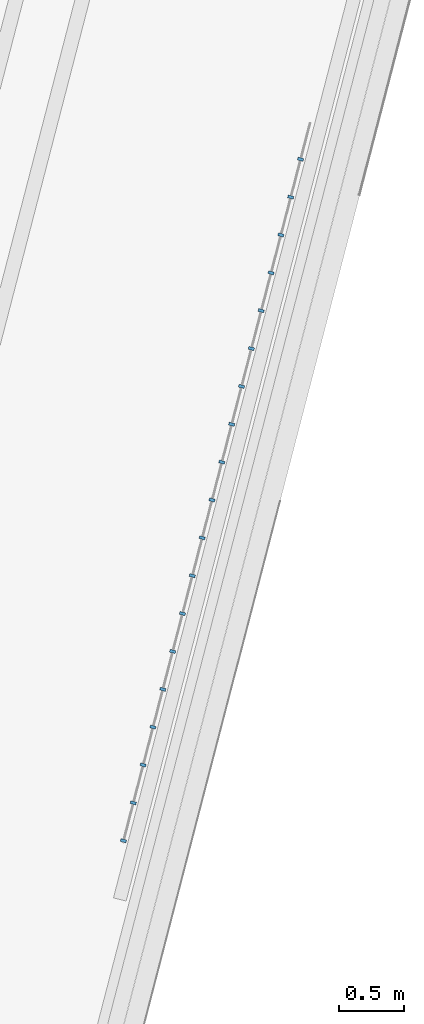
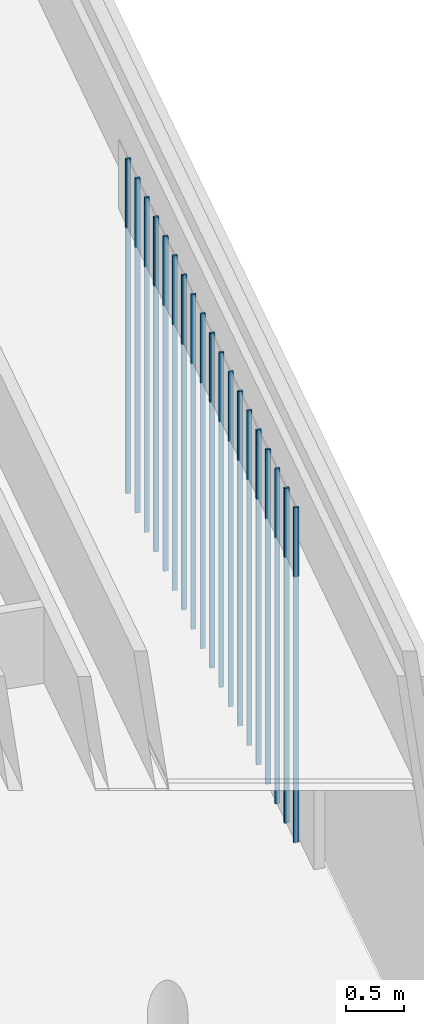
# One storey, part 3 of 9: 19 members, 1 element without a shape of its own.
"""IFC2X3 building model written with IfcOpenShell, lengths in millimetres."""

import ifcopenshell
import ifcopenshell.guid

model = None  # the IFC model being written
_history = None  # IfcOwnerHistory: only IFC2X3 demands one
_inside = {}  # id of a spatial element -> (the spatial element, [elements in it])
_under = {}  # id of a project, library or spatial element -> (it, [spatial elements below it])
_declared = {}  # id of a project -> (the project, [libraries it declares])
_typed = {}  # id of a type object -> (the type object, [elements of that type])
_made_of = {}  # id of a material, layer set ... -> (it, [elements and type objects made of it])


def new_model(schema):
    """Start an empty IFC model of exactly this schema.

    Asked for "IFC4X3", IfcOpenShell would pick the latest addendum, in which some entities
    have other attributes; the version numbers below select the first issue.
    IFC2X3 requires an IfcOwnerHistory on every rooted entity: one is made here for all.
    """
    global model, _history
    if schema == "IFC4X3":
        model = ifcopenshell.file(schema_version=(4, 3, 0, 0))
    else:
        model = ifcopenshell.file(schema=schema)
    _inside.clear()
    _under.clear()
    _declared.clear()
    _typed.clear()
    _made_of.clear()
    _history = None
    if model.schema == "IFC2X3":
        org = make("IfcOrganization", Name="unknown")
        user = make(
            "IfcPersonAndOrganization",
            ThePerson=make("IfcPerson", FamilyName="unknown"),
            TheOrganization=org,
        )
        app = make(
            "IfcApplication",
            ApplicationDeveloper=org,
            Version="unknown",
            ApplicationFullName="unknown",
            ApplicationIdentifier="unknown",
        )
        _history = make(
            "IfcOwnerHistory",
            OwningUser=user,
            OwningApplication=app,
            ChangeAction="ADDED",
            CreationDate=0,
        )
    return model


def make(cls, **values):
    """One entity of the class cls with the attributes given. An attribute that is None is left unset."""
    return model.create_entity(
        cls, **{name: value for name, value in values.items() if value is not None}
    )


def entity(cls, *values):
    """Any entity or typed value of the class cls, its attributes in the order of the schema. None: left unset."""
    e = model.create_entity(cls)
    for i, value in enumerate(values):
        if value is not None:
            e[i] = value
    return e


def rooted(cls, **values):
    """An entity with a GlobalId (a new one), such as an element, a storey or a relation."""
    return make(cls, GlobalId=ifcopenshell.guid.new(), OwnerHistory=_history, **values)


def si_unit(unit_type, name, prefix=None):
    """IfcSIUnit, for example si_unit("LENGTHUNIT", "METRE", prefix="MILLI")."""
    return make("IfcSIUnit", UnitType=unit_type, Prefix=prefix, Name=name)


def converted_unit(unit_type, name, factor, base, dimensions=None, offset=None):
    """IfcConversionBasedUnit, such as the inch: factor (a typed value) times the base unit."""
    return make(
        "IfcConversionBasedUnit"
        if offset is None
        else "IfcConversionBasedUnitWithOffset",
        ConversionOffset=offset,
        Dimensions=None
        if dimensions is None
        else entity("IfcDimensionalExponents", *dimensions),
        UnitType=unit_type,
        Name=name,
        ConversionFactor=make(
            "IfcMeasureWithUnit", ValueComponent=factor, UnitComponent=base
        ),
    )


def derived_unit(unit_type, elements):
    """IfcDerivedUnit: a product of units, each with its exponent."""
    return make(
        "IfcDerivedUnit",
        Elements=[
            make("IfcDerivedUnitElement", Unit=unit, Exponent=power)
            for unit, power in elements
        ],
        UnitType=unit_type,
    )


def assignment(units):
    """IfcUnitAssignment: the units of a project."""
    return None if units is None else make("IfcUnitAssignment", Units=units)


def point(xyz):
    """IfcCartesianPoint."""
    return None if xyz is None else make("IfcCartesianPoint", Coordinates=xyz)


def direction(xyz):
    """IfcDirection."""
    return None if xyz is None else make("IfcDirection", DirectionRatios=xyz)


def frame(location, z_axis=None, x_axis=None):
    """IfcAxis2Placement3D, a coordinate frame: its origin and axes. An axis left out is left unset."""
    return make(
        "IfcAxis2Placement3D",
        Location=point(location),
        Axis=direction(z_axis),
        RefDirection=direction(x_axis),
    )


def origin():
    """The frame at (0, 0, 0) with its axes left unset."""
    return frame((0.0, 0.0, 0.0))


def origin_with_axes():
    """The frame at (0, 0, 0) with the z axis (0, 0, 1) and the x axis (1, 0, 0) written out."""
    return frame((0.0, 0.0, 0.0), z_axis=(0.0, 0.0, 1.0), x_axis=(1.0, 0.0, 0.0))


def place(relative_to, where):
    """IfcLocalPlacement: puts the frame where relative to a parent placement (None: the world)."""
    return make(
        "IfcLocalPlacement", PlacementRelTo=relative_to, RelativePlacement=where
    )


def context(
    kind, dimensions, precision=None, world=None, true_north=None, identifier=None
):
    """IfcGeometricRepresentationContext, for example the 3D "Model" context."""
    return make(
        "IfcGeometricRepresentationContext",
        ContextIdentifier=identifier,
        ContextType=kind,
        CoordinateSpaceDimension=dimensions,
        Precision=precision,
        WorldCoordinateSystem=world,
        TrueNorth=true_north,
    )


def subcontext(parent, identifier, kind, view, scale=None):
    """IfcGeometricRepresentationSubContext, for example "Body" below "Model"."""
    return make(
        "IfcGeometricRepresentationSubContext",
        ContextIdentifier=identifier,
        ContextType=kind,
        ParentContext=parent,
        TargetScale=scale,
        TargetView=view,
    )


def project(units=None, contexts=None):
    """IfcProject with its units and contexts."""
    return rooted(
        "IfcProject",
        Name="project",
        RepresentationContexts=contexts,
        UnitsInContext=assignment(units),
    )


def spatial(cls, under=None, at=None, **own):
    """A site, building, storey or space (cls), placed at a placement, below another one or the project."""
    s = rooted(cls, ObjectPlacement=at, **own)
    if under is not None:
        _under.setdefault(under.id(), (under, []))[1].append(s)
    return s


def faces_of(points, faces, orient=None, outer=None):
    """IfcFace entities. A face is a list of loops; a loop is a list of indices into points, from 0.

    orient and outer hold one flag for each loop. By default every Orientation is true, the
    first loop of a face is its IfcFaceOuterBound and the others are IfcFaceBound.
    """
    made = []
    for i, loops in enumerate(faces):
        bounds = []
        for j, loop in enumerate(loops):
            is_outer = j == 0 if outer is None else outer[i][j]
            bounds.append(
                make(
                    "IfcFaceOuterBound" if is_outer else "IfcFaceBound",
                    Bound=make("IfcPolyLoop", Polygon=[points[k] for k in loop]),
                    Orientation=True if orient is None else orient[i][j],
                )
            )
        made.append(make("IfcFace", Bounds=bounds))
    return made


def faceted_brep(points, faces, orient=None, outer=None, voids=None):
    """IfcFacetedBrep: a solid bounded by flat faces; with voids (closed shells), ...WithVoids."""
    shared = [point(p) for p in points]
    hull = make("IfcClosedShell", CfsFaces=faces_of(shared, faces, orient, outer))
    if voids is None:
        return make("IfcFacetedBrep", Outer=hull)
    return make(
        "IfcFacetedBrepWithVoids",
        Outer=hull,
        Voids=[
            make(cls, CfsFaces=faces_of(shared, fs, o, b)) for cls, fs, o, b in voids
        ],
    )


def shape(context_of_items, identifier, shape_type, items):
    """IfcShapeRepresentation: the items that make up one representation, for example the "Body"."""
    return make(
        "IfcShapeRepresentation",
        ContextOfItems=context_of_items,
        RepresentationIdentifier=identifier,
        RepresentationType=shape_type,
        Items=items,
    )


def material(Name=None, Category=None):
    """IfcMaterial."""
    return make("IfcMaterial", Name=Name, Category=Category)


def made_of(thing, what):
    """Note that an element or type object is made of a material, layer set ...; save() writes the relation."""
    if what is not None:
        _made_of.setdefault(what.id(), (what, []))[1].append(thing)
    return thing


def type_object(cls, material=None, **own):
    """A type object (cls), such as IfcWallType, which elements share."""
    return made_of(rooted(cls, **own), material)


def element(
    cls,
    number,
    at=None,
    inside=None,
    cuts=None,
    type_object=None,
    material=None,
    context=None,
    identifier="Body",
    shape_type=None,
    held_by="IfcProductDefinitionShape",
    body=None,
    shapes=None,
    **own,
):
    """One element of the class cls, such as IfcWall. Its Tag is "e" and its number.

    at: its placement. inside: the storey or other place that contains it. cuts: it is an
    opening in that element (IfcRelVoidsElement). A single representation is given by context,
    identifier, shape_type and body (its items); several are given by shapes. held_by: the class
    of the entity that holds the representations. save() writes the other relations.
    """
    e = rooted(cls, Tag="e%d" % number, ObjectPlacement=at, **own)
    if body is not None:
        shapes = [shape(context, identifier, shape_type, body)]
    if shapes is not None:
        e.Representation = make(held_by, Representations=shapes)
    if inside is not None:
        _inside.setdefault(inside.id(), (inside, []))[1].append(e)
    if cuts is not None:
        rooted(
            "IfcRelVoidsElement", RelatingBuildingElement=cuts, RelatedOpeningElement=e
        )
    if type_object is not None:
        _typed.setdefault(type_object.id(), (type_object, []))[1].append(e)
    return made_of(e, material)


def aggregate(whole, parts):
    """IfcRelAggregates: a whole, such as a stair, and the parts it consists of."""
    return rooted("IfcRelAggregates", RelatingObject=whole, RelatedObjects=parts)


def save(model, path):
    """Write the relations noted so far, then the file.

    IfcRelAggregates (storeys below a building ...), IfcRelContainedInSpatialStructure (elements
    in a storey), IfcRelDefinesByType, IfcRelAssociatesMaterial and IfcRelDeclares: one each for
    every whole, place, type object, material and project.
    """
    for whole, parts in _under.values():
        aggregate(whole, parts)
    for where, things in _inside.values():
        rooted(
            "IfcRelContainedInSpatialStructure",
            RelatedElements=things,
            RelatingStructure=where,
        )
    for kind, things in _typed.values():
        rooted("IfcRelDefinesByType", RelatedObjects=things, RelatingType=kind)
    for what, things in _made_of.values():
        rooted("IfcRelAssociatesMaterial", RelatedObjects=things, RelatingMaterial=what)
    for by, libraries in _declared.values():
        rooted("IfcRelDeclares", RelatingContext=by, RelatedDefinitions=libraries)
    model.write(path)


model = new_model("IFC2X3")

# Units and contexts
plan_context = context("Plan", 3, precision=1e-05, world=origin_with_axes())
model_context = context("Model", 3, precision=0.01, world=origin(), true_north=direction((6.12323399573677e-17, 1.0)))
body_context = subcontext(model_context, "Body", "Model", "MODEL_VIEW")
ifc_project = project(units=[converted_unit("PLANEANGLEUNIT", "DEGREE", entity("IfcPositiveLengthMeasure", 0.0174532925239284), si_unit("PLANEANGLEUNIT", "RADIAN"), dimensions=[0, 0, 0, 0, 0, 0, 0]), si_unit("AREAUNIT", "SQUARE_METRE"), si_unit("LENGTHUNIT", "METRE", prefix="MILLI"), si_unit("MASSUNIT", "GRAM", prefix="KILO"), si_unit("POWERUNIT", "WATT"), si_unit("PRESSUREUNIT", "PASCAL", prefix="KILO"), si_unit("FORCEUNIT", "NEWTON", prefix="KILO"), si_unit("ELECTRICVOLTAGEUNIT", "VOLT"), si_unit("ELECTRICCURRENTUNIT", "AMPERE"), si_unit("THERMODYNAMICTEMPERATUREUNIT", "DEGREE_CELSIUS"), si_unit("TIMEUNIT", "SECOND"), si_unit("VOLUMEUNIT", "CUBIC_METRE"), derived_unit("LINEARVELOCITYUNIT", [(si_unit("LENGTHUNIT", "METRE"), 1), (si_unit("TIMEUNIT", "SECOND"), -1)]), derived_unit("VOLUMETRICFLOWRATEUNIT", [(si_unit("VOLUMEUNIT", "CUBIC_METRE"), 1), (si_unit("TIMEUNIT", "SECOND"), -1)]), derived_unit("THERMALTRANSMITTANCEUNIT", [(si_unit("POWERUNIT", "WATT"), 1), (si_unit("THERMODYNAMICTEMPERATUREUNIT", "KELVIN"), -1), (si_unit("AREAUNIT", "SQUARE_METRE"), -1)]), derived_unit("SOUNDPRESSUREUNIT", [(si_unit("PRESSUREUNIT", "PASCAL"), 1)])], contexts=[model_context, plan_context])

# Site, building, storey
site_placement = place(None, frame((0.0, -2.21771188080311e-09, 0.0), z_axis=(0.0, 0.0, 1.0), x_axis=(0.266093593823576, -0.963947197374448, 0.0)))
site = spatial("IfcSite", under=ifc_project, at=site_placement, Name="ENZV", CompositionType="ELEMENT")
building_placement = place(site_placement, origin_with_axes())
building = spatial("IfcBuilding", under=site, at=building_placement, Name="ZV001", CompositionType="ELEMENT")
storey_placement = place(building_placement, frame((0.0, 0.0, 5100.0), z_axis=(0.0, 0.0, 1.0), x_axis=(1.0, 0.0, 0.0)))
storey = spatial("IfcBuildingStorey", under=building, at=storey_placement, Name="H01", CompositionType="ELEMENT", Elevation=5100.0)

# Curtain wall, members
curtain_wall_type = type_object("IfcCurtainWallType", Name="Curtain Wall:Trespiler", PredefinedType="NOTDEFINED")
curtain_wall_placement = place(storey_placement, frame((0.0, 0.0, -5100.0), z_axis=(0.0, 0.0, 1.0), x_axis=(1.0, 0.0, 0.0)))
curtain_wall = element("IfcCurtainWall", 1, at=curtain_wall_placement, inside=storey, type_object=curtain_wall_type, Name="Curtain Wall:Trespiler", ObjectType="Curtain Wall:Trespiler")
ifc_material = material(Name="Eik")
member_type = type_object("IfcMemberType", Name="Rectangular Mullion:21x45 tre", PredefinedType="MULLION", material=ifc_material)
member_1_placement = place(curtain_wall_placement, frame((-173920.9009817, 388795.469299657, 5100.0), z_axis=(0.0, 0.0, -1.0), x_axis=(0.866025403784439, -0.5, 0.0)))
member_1 = element("IfcMember", 2, at=member_1_placement, type_object=member_type, Name="Rectangular Mullion:21x45 tre", ObjectType="Rectangular Mullion:21x45 tre", context=body_context, shape_type="Brep", body=[
    faceted_brep([(11.0, 22.5, -3500.0), (11.0, -22.5, -3500.0), (11.0, -22.5, -9.09494701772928e-13), (11.0, 22.5, -9.09494701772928e-13), (-11.0, 22.5, -3500.0), (-11.0, 22.5, -9.09494701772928e-13), (-11.0, -22.5, -3500.0), (-11.0, -22.5, -9.09494701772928e-13)], [[[0, 1, 2, 3]], [[4, 0, 3, 5]], [[6, 4, 5, 7]], [[1, 6, 7, 2]], [[3, 2, 7, 5]], [[4, 6, 1, 0]]], orient=[[False], [False], [False], [False], [False], [False]]),
])
member_2_placement = place(curtain_wall_placement, frame((-173661.09335901, 388645.469302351, 5100.0), z_axis=(0.0, 0.0, -1.0), x_axis=(0.866025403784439, -0.5, 0.0)))
member_2 = element("IfcMember", 3, at=member_2_placement, type_object=member_type, Name="Rectangular Mullion:21x45 tre", ObjectType="Rectangular Mullion:21x45 tre", context=body_context, shape_type="Brep", body=[
    faceted_brep([(11.0, 22.5, -3500.0), (11.0, -22.5, -3500.0), (11.0, -22.5, -9.09494701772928e-13), (11.0, 22.5, -9.09494701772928e-13), (-11.0, 22.5, -3500.0), (-11.0, 22.5, -9.09494701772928e-13), (-11.0, -22.5, -3500.0), (-11.0, -22.5, -9.09494701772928e-13)], [[[0, 1, 2, 3]], [[4, 0, 3, 5]], [[6, 4, 5, 7]], [[1, 6, 7, 2]], [[3, 2, 7, 5]], [[4, 6, 1, 0]]], orient=[[False], [False], [False], [False], [False], [False]]),
])
member_3_placement = place(curtain_wall_placement, frame((-173401.285736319, 388495.469305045, 5100.0), z_axis=(0.0, 0.0, -1.0), x_axis=(0.866025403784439, -0.5, 0.0)))
member_3 = element("IfcMember", 4, at=member_3_placement, type_object=member_type, Name="Rectangular Mullion:21x45 tre", ObjectType="Rectangular Mullion:21x45 tre", context=body_context, shape_type="Brep", body=[
    faceted_brep([(11.0, 22.5, -3500.0), (11.0, -22.5, -3500.0), (11.0, -22.5, -9.09494701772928e-13), (11.0, 22.5, -9.09494701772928e-13), (-11.0, 22.5, -3500.0), (-11.0, 22.5, -9.09494701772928e-13), (-11.0, -22.5, -3500.0), (-11.0, -22.5, -9.09494701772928e-13)], [[[0, 1, 2, 3]], [[4, 0, 3, 5]], [[6, 4, 5, 7]], [[1, 6, 7, 2]], [[3, 2, 7, 5]], [[4, 6, 1, 0]]], orient=[[False], [False], [False], [False], [False], [False]]),
])
member_4_placement = place(curtain_wall_placement, frame((-173141.478113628, 388345.46930774, 5100.0), z_axis=(0.0, 0.0, -1.0), x_axis=(0.866025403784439, -0.5, 0.0)))
member_4 = element("IfcMember", 5, at=member_4_placement, type_object=member_type, Name="Rectangular Mullion:21x45 tre", ObjectType="Rectangular Mullion:21x45 tre", context=body_context, shape_type="Brep", body=[
    faceted_brep([(11.0, 22.5, -3500.0), (11.0, -22.5, -3500.0), (11.0, -22.5, -9.09494701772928e-13), (11.0, 22.5, -9.09494701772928e-13), (-11.0, 22.5, -3500.0), (-11.0, 22.5, -9.09494701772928e-13), (-11.0, -22.5, -3500.0), (-11.0, -22.5, -9.09494701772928e-13)], [[[0, 1, 2, 3]], [[4, 0, 3, 5]], [[6, 4, 5, 7]], [[1, 6, 7, 2]], [[3, 2, 7, 5]], [[4, 6, 1, 0]]], orient=[[False], [False], [False], [False], [False], [False]]),
])
member_5_placement = place(curtain_wall_placement, frame((-172881.670490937, 388195.469310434, 5100.0), z_axis=(0.0, 0.0, -1.0), x_axis=(0.866025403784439, -0.5, 0.0)))
member_5 = element("IfcMember", 6, at=member_5_placement, type_object=member_type, Name="Rectangular Mullion:21x45 tre", ObjectType="Rectangular Mullion:21x45 tre", context=body_context, shape_type="Brep", body=[
    faceted_brep([(11.0, 22.5, -3500.0), (11.0, -22.5, -3500.0), (11.0, -22.5, -9.09494701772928e-13), (11.0, 22.5, -9.09494701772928e-13), (-11.0, 22.5, -3500.0), (-11.0, 22.5, -9.09494701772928e-13), (-11.0, -22.5, -3500.0), (-11.0, -22.5, -9.09494701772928e-13)], [[[0, 1, 2, 3]], [[4, 0, 3, 5]], [[6, 4, 5, 7]], [[1, 6, 7, 2]], [[3, 2, 7, 5]], [[4, 6, 1, 0]]], orient=[[False], [False], [False], [False], [False], [False]]),
])
member_6_placement = place(curtain_wall_placement, frame((-172621.862868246, 388045.469313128, 5100.0), z_axis=(0.0, 0.0, -1.0), x_axis=(0.866025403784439, -0.5, 0.0)))
member_6 = element("IfcMember", 7, at=member_6_placement, type_object=member_type, Name="Rectangular Mullion:21x45 tre", ObjectType="Rectangular Mullion:21x45 tre", context=body_context, shape_type="Brep", body=[
    faceted_brep([(11.0, 22.5, -3500.0), (11.0, -22.5, -3500.0), (11.0, -22.5, -9.09494701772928e-13), (11.0, 22.5, -9.09494701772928e-13), (-11.0, 22.5, -3500.0), (-11.0, 22.5, -9.09494701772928e-13), (-11.0, -22.5, -3500.0), (-11.0, -22.5, -9.09494701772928e-13)], [[[0, 1, 2, 3]], [[4, 0, 3, 5]], [[6, 4, 5, 7]], [[1, 6, 7, 2]], [[3, 2, 7, 5]], [[4, 6, 1, 0]]], orient=[[False], [False], [False], [False], [False], [False]]),
])
member_7_placement = place(curtain_wall_placement, frame((-172362.055245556, 387895.469315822, 5100.0), z_axis=(0.0, 0.0, -1.0), x_axis=(0.866025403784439, -0.5, 0.0)))
member_7 = element("IfcMember", 8, at=member_7_placement, type_object=member_type, Name="Rectangular Mullion:21x45 tre", ObjectType="Rectangular Mullion:21x45 tre", context=body_context, shape_type="Brep", body=[
    faceted_brep([(11.0, 22.5, -3500.0), (11.0, -22.5, -3500.0), (11.0, -22.5, -9.09494701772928e-13), (11.0, 22.5, -9.09494701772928e-13), (-11.0, 22.5, -3500.0), (-11.0, 22.5, -9.09494701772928e-13), (-11.0, -22.5, -3500.0), (-11.0, -22.5, -9.09494701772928e-13)], [[[0, 1, 2, 3]], [[4, 0, 3, 5]], [[6, 4, 5, 7]], [[1, 6, 7, 2]], [[3, 2, 7, 5]], [[4, 6, 1, 0]]], orient=[[False], [False], [False], [False], [False], [False]]),
])
member_8_placement = place(curtain_wall_placement, frame((-172102.247622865, 387745.469318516, 5100.0), z_axis=(0.0, 0.0, -1.0), x_axis=(0.866025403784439, -0.5, 0.0)))
member_8 = element("IfcMember", 9, at=member_8_placement, type_object=member_type, Name="Rectangular Mullion:21x45 tre", ObjectType="Rectangular Mullion:21x45 tre", context=body_context, shape_type="Brep", body=[
    faceted_brep([(11.0, 22.5, -3500.0), (11.0, -22.5, -3500.0), (11.0, -22.5, -9.09494701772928e-13), (11.0, 22.5, -9.09494701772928e-13), (-11.0, 22.5, -3500.0), (-11.0, 22.5, -9.09494701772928e-13), (-11.0, -22.5, -3500.0), (-11.0, -22.5, -9.09494701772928e-13)], [[[0, 1, 2, 3]], [[4, 0, 3, 5]], [[6, 4, 5, 7]], [[1, 6, 7, 2]], [[3, 2, 7, 5]], [[4, 6, 1, 0]]], orient=[[False], [False], [False], [False], [False], [False]]),
])
member_9_placement = place(curtain_wall_placement, frame((-171842.440000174, 387595.46932121, 5100.0), z_axis=(0.0, 0.0, -1.0), x_axis=(0.866025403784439, -0.5, 0.0)))
member_9 = element("IfcMember", 10, at=member_9_placement, type_object=member_type, Name="Rectangular Mullion:21x45 tre", ObjectType="Rectangular Mullion:21x45 tre", context=body_context, shape_type="Brep", body=[
    faceted_brep([(11.0, 22.5, -3500.0), (11.0, -22.5, -3500.0), (11.0, -22.5, -9.09494701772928e-13), (11.0, 22.5, -9.09494701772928e-13), (-11.0, 22.5, -3500.0), (-11.0, 22.5, -9.09494701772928e-13), (-11.0, -22.5, -3500.0), (-11.0, -22.5, -9.09494701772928e-13)], [[[0, 1, 2, 3]], [[4, 0, 3, 5]], [[6, 4, 5, 7]], [[1, 6, 7, 2]], [[3, 2, 7, 5]], [[4, 6, 1, 0]]], orient=[[False], [False], [False], [False], [False], [False]]),
])
member_10_placement = place(curtain_wall_placement, frame((-171582.632377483, 387445.469323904, 5100.0), z_axis=(0.0, 0.0, -1.0), x_axis=(0.866025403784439, -0.5, 0.0)))
member_10 = element("IfcMember", 11, at=member_10_placement, type_object=member_type, Name="Rectangular Mullion:21x45 tre", ObjectType="Rectangular Mullion:21x45 tre", context=body_context, shape_type="Brep", body=[
    faceted_brep([(11.0, 22.5, -3500.0), (11.0, -22.5, -3500.0), (11.0, -22.5, -9.09494701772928e-13), (11.0, 22.5, -9.09494701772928e-13), (-11.0, 22.5, -3500.0), (-11.0, 22.5, -9.09494701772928e-13), (-11.0, -22.5, -3500.0), (-11.0, -22.5, -9.09494701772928e-13)], [[[0, 1, 2, 3]], [[4, 0, 3, 5]], [[6, 4, 5, 7]], [[1, 6, 7, 2]], [[3, 2, 7, 5]], [[4, 6, 1, 0]]], orient=[[False], [False], [False], [False], [False], [False]]),
])
member_11_placement = place(curtain_wall_placement, frame((-171322.824754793, 387295.469326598, 5100.0), z_axis=(0.0, 0.0, -1.0), x_axis=(0.866025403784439, -0.5, 0.0)))
member_11 = element("IfcMember", 12, at=member_11_placement, type_object=member_type, Name="Rectangular Mullion:21x45 tre", ObjectType="Rectangular Mullion:21x45 tre", context=body_context, shape_type="Brep", body=[
    faceted_brep([(11.0, 22.5, -3500.0), (11.0, -22.5, -3500.0), (11.0, -22.5, -9.09494701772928e-13), (11.0, 22.5, -9.09494701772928e-13), (-11.0, 22.5, -3500.0), (-11.0, 22.5, -9.09494701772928e-13), (-11.0, -22.5, -3500.0), (-11.0, -22.5, -9.09494701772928e-13)], [[[0, 1, 2, 3]], [[4, 0, 3, 5]], [[6, 4, 5, 7]], [[1, 6, 7, 2]], [[3, 2, 7, 5]], [[4, 6, 1, 0]]], orient=[[False], [False], [False], [False], [False], [False]]),
])
member_12_placement = place(curtain_wall_placement, frame((-171063.017132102, 387145.469329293, 5100.0), z_axis=(0.0, 0.0, -1.0), x_axis=(0.866025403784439, -0.5, 0.0)))
member_12 = element("IfcMember", 13, at=member_12_placement, type_object=member_type, Name="Rectangular Mullion:21x45 tre", ObjectType="Rectangular Mullion:21x45 tre", context=body_context, shape_type="Brep", body=[
    faceted_brep([(11.0, 22.5, -3500.0), (11.0, -22.5, -3500.0), (11.0, -22.5, -9.09494701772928e-13), (11.0, 22.5, -9.09494701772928e-13), (-11.0, 22.5, -3500.0), (-11.0, 22.5, -9.09494701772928e-13), (-11.0, -22.5, -3500.0), (-11.0, -22.5, -9.09494701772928e-13)], [[[0, 1, 2, 3]], [[4, 0, 3, 5]], [[6, 4, 5, 7]], [[1, 6, 7, 2]], [[3, 2, 7, 5]], [[4, 6, 1, 0]]], orient=[[False], [False], [False], [False], [False], [False]]),
])
member_13_placement = place(curtain_wall_placement, frame((-170803.209509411, 386995.469331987, 5100.0), z_axis=(0.0, 0.0, -1.0), x_axis=(0.866025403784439, -0.5, 0.0)))
member_13 = element("IfcMember", 14, at=member_13_placement, type_object=member_type, Name="Rectangular Mullion:21x45 tre", ObjectType="Rectangular Mullion:21x45 tre", context=body_context, shape_type="Brep", body=[
    faceted_brep([(11.0, 22.5, -3500.0), (11.0, -22.5, -3500.0), (11.0, -22.5, -9.09494701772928e-13), (11.0, 22.5, -9.09494701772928e-13), (-11.0, 22.5, -3500.0), (-11.0, 22.5, -9.09494701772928e-13), (-11.0, -22.5, -3500.0), (-11.0, -22.5, -9.09494701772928e-13)], [[[0, 1, 2, 3]], [[4, 0, 3, 5]], [[6, 4, 5, 7]], [[1, 6, 7, 2]], [[3, 2, 7, 5]], [[4, 6, 1, 0]]], orient=[[False], [False], [False], [False], [False], [False]]),
])
member_14_placement = place(curtain_wall_placement, frame((-170543.40188672, 386845.469334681, 5100.0), z_axis=(0.0, 0.0, -1.0), x_axis=(0.866025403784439, -0.5, 0.0)))
member_14 = element("IfcMember", 15, at=member_14_placement, type_object=member_type, Name="Rectangular Mullion:21x45 tre", ObjectType="Rectangular Mullion:21x45 tre", context=body_context, shape_type="Brep", body=[
    faceted_brep([(11.0, 22.5, -3500.0), (11.0, -22.5, -3500.0), (11.0, -22.5, -9.09494701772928e-13), (11.0, 22.5, -9.09494701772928e-13), (-11.0, 22.5, -3500.0), (-11.0, 22.5, -9.09494701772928e-13), (-11.0, -22.5, -3500.0), (-11.0, -22.5, -9.09494701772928e-13)], [[[0, 1, 2, 3]], [[4, 0, 3, 5]], [[6, 4, 5, 7]], [[1, 6, 7, 2]], [[3, 2, 7, 5]], [[4, 6, 1, 0]]], orient=[[False], [False], [False], [False], [False], [False]]),
])
member_15_placement = place(curtain_wall_placement, frame((-170283.594264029, 386695.469337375, 5100.0), z_axis=(0.0, 0.0, -1.0), x_axis=(0.866025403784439, -0.5, 0.0)))
member_15 = element("IfcMember", 16, at=member_15_placement, type_object=member_type, Name="Rectangular Mullion:21x45 tre", ObjectType="Rectangular Mullion:21x45 tre", context=body_context, shape_type="Brep", body=[
    faceted_brep([(11.0, 22.5, -3500.0), (11.0, -22.5, -3500.0), (11.0, -22.5, -9.09494701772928e-13), (11.0, 22.5, -9.09494701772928e-13), (-11.0, 22.5, -3500.0), (-11.0, 22.5, -9.09494701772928e-13), (-11.0, -22.5, -3500.0), (-11.0, -22.5, -9.09494701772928e-13)], [[[0, 1, 2, 3]], [[4, 0, 3, 5]], [[6, 4, 5, 7]], [[1, 6, 7, 2]], [[3, 2, 7, 5]], [[4, 6, 1, 0]]], orient=[[False], [False], [False], [False], [False], [False]]),
])
member_16_placement = place(curtain_wall_placement, frame((-170023.786641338, 386545.469340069, 5100.0), z_axis=(0.0, 0.0, -1.0), x_axis=(0.866025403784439, -0.5, 0.0)))
member_16 = element("IfcMember", 17, at=member_16_placement, type_object=member_type, Name="Rectangular Mullion:21x45 tre", ObjectType="Rectangular Mullion:21x45 tre", context=body_context, shape_type="Brep", body=[
    faceted_brep([(11.0, 22.5, -3500.0), (11.0, -22.5, -3500.0), (11.0, -22.5, -9.09494701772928e-13), (11.0, 22.5, -9.09494701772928e-13), (-11.0, 22.5, -3500.0), (-11.0, 22.5, -9.09494701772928e-13), (-11.0, -22.5, -3500.0), (-11.0, -22.5, -9.09494701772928e-13)], [[[0, 1, 2, 3]], [[4, 0, 3, 5]], [[6, 4, 5, 7]], [[1, 6, 7, 2]], [[3, 2, 7, 5]], [[4, 6, 1, 0]]], orient=[[False], [False], [False], [False], [False], [False]]),
])
member_17_placement = place(curtain_wall_placement, frame((-169763.979018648, 386395.469342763, 5100.0), z_axis=(0.0, 0.0, -1.0), x_axis=(0.866025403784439, -0.5, 0.0)))
member_17 = element("IfcMember", 18, at=member_17_placement, type_object=member_type, Name="Rectangular Mullion:21x45 tre", ObjectType="Rectangular Mullion:21x45 tre", context=body_context, shape_type="Brep", body=[
    faceted_brep([(11.0, 22.5, -3500.0), (11.0, -22.5, -3500.0), (11.0, -22.5, -9.09494701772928e-13), (11.0, 22.5, -9.09494701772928e-13), (-11.0, 22.5, -3500.0), (-11.0, 22.5, -9.09494701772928e-13), (-11.0, -22.5, -3500.0), (-11.0, -22.5, -9.09494701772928e-13)], [[[0, 1, 2, 3]], [[4, 0, 3, 5]], [[6, 4, 5, 7]], [[1, 6, 7, 2]], [[3, 2, 7, 5]], [[4, 6, 1, 0]]], orient=[[False], [False], [False], [False], [False], [False]]),
])
member_18_placement = place(curtain_wall_placement, frame((-169504.171395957, 386245.469345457, 5100.0), z_axis=(0.0, 0.0, -1.0), x_axis=(0.866025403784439, -0.5, 0.0)))
member_18 = element("IfcMember", 19, at=member_18_placement, type_object=member_type, Name="Rectangular Mullion:21x45 tre", ObjectType="Rectangular Mullion:21x45 tre", context=body_context, shape_type="Brep", body=[
    faceted_brep([(11.0, 22.5, -3500.0), (11.0, -22.5, -3500.0), (11.0, -22.5, -9.09494701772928e-13), (11.0, 22.5, -9.09494701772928e-13), (-11.0, 22.5, -3500.0), (-11.0, 22.5, -9.09494701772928e-13), (-11.0, -22.5, -3500.0), (-11.0, -22.5, -9.09494701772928e-13)], [[[0, 1, 2, 3]], [[4, 0, 3, 5]], [[6, 4, 5, 7]], [[1, 6, 7, 2]], [[3, 2, 7, 5]], [[4, 6, 1, 0]]], orient=[[False], [False], [False], [False], [False], [False]]),
])
member_19_placement = place(curtain_wall_placement, frame((-169244.363773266, 386095.469348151, 5100.0), z_axis=(0.0, 0.0, -1.0), x_axis=(0.866025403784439, -0.5, 0.0)))
member_19 = element("IfcMember", 20, at=member_19_placement, type_object=member_type, Name="Rectangular Mullion:21x45 tre", ObjectType="Rectangular Mullion:21x45 tre", context=body_context, shape_type="Brep", body=[
    faceted_brep([(11.0, 22.5, -3500.0), (11.0, -22.5, -3500.0), (11.0, -22.5, -9.09494701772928e-13), (11.0, 22.5, -9.09494701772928e-13), (-11.0, 22.5, -3500.0), (-11.0, 22.5, -9.09494701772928e-13), (-11.0, -22.5, -3500.0), (-11.0, -22.5, -9.09494701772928e-13)], [[[0, 1, 2, 3]], [[4, 0, 3, 5]], [[6, 4, 5, 7]], [[1, 6, 7, 2]], [[3, 2, 7, 5]], [[4, 6, 1, 0]]], orient=[[False], [False], [False], [False], [False], [False]]),
])
aggregate(curtain_wall, [member_1, member_2, member_3, member_4, member_5, member_6, member_7, member_8, member_9, member_10, member_11, member_12, member_13, member_14, member_15, member_16, member_17, member_18, member_19])

save(model, "model.ifc")
